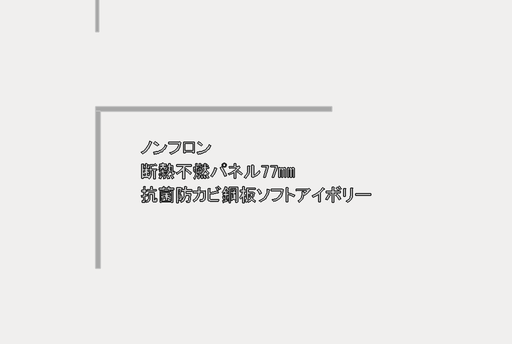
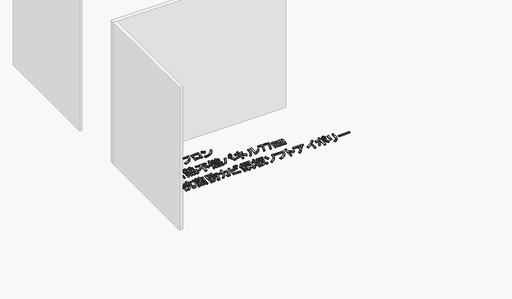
# One storey, part 10 of 117: 1 proxy.
"""IFC4 building model written with IfcOpenShell, lengths in millimetres."""

from ifc_helpers import new_model, si_unit, frame, origin, place, context, project, spatial, polyline, outline, extrude, element, save

model = new_model("IFC4")

# Units and contexts
model_context = context("Model", 3, world=origin())
ifc_project = project(units=[si_unit("LENGTHUNIT", "METRE", prefix="MILLI")], contexts=[model_context])

# Site, building, storey
site = spatial("IfcSite", under=ifc_project)
building = spatial("IfcBuilding", under=site)
storey = spatial("IfcBuildingStorey", under=building, Name="レベル 1", Elevation=500.0)

# Proxy
placement = place(None, origin())
element("IfcBuildingElementProxy", 1, Name="200㎜\u3000MS Pゴシック", ObjectType="200㎜\u3000MS Pゴシック", at=placement, inside=storey, context=model_context, shape_type="SweptSolid", body=[
    extrude(outline(polyline([(-7056.3293015, -28607.0496882), (-7081.9047498, -28666.8215225), (-7110.353844, -28712.7998566), (-7152.0217093, -28758.2034615), (-7201.1610538, -28795.560858), (-7228.7480543, -28773.7211493), (-7181.0455327, -28743.2605029), (-7141.3892195, -28704.7536481), (-7124.0036619, -28680.8305462), (-7108.6296565, -28652.7406577), (-7095.2672031, -28620.4839827), (-7083.9163019, -28584.0605212), (-7052.8809264, -28597.8540214), (-7049.7199159, -28602.4518548), (-7056.3293015, -28607.0496882)])), frame((0.0, 0.0, 500.0), z_axis=(0.0, 0.0, 1.0), x_axis=(1.0, 0.0, 0.0)), (0.0, 0.0, 1.0), 25.0),
    extrude(outline(polyline([(-6956.6022948, -28662.2236891), (-7015.2246708, -28615.0958967), (-6995.6838788, -28590.9572713), (-6968.3842429, -28610.7854279), (-6934.7625862, -28640.3839804), (-6956.6022948, -28662.2236891)])), frame((0.0, 0.0, 500.0), z_axis=(0.0, 0.0, 1.0), x_axis=(1.0, 0.0, 0.0)), (0.0, 0.0, 1.0), 25.0),
    extrude(outline(polyline([(-6794.5286672, -28662.2236891), (-6811.052131, -28691.965924), (-6830.1618761, -28717.9724192), (-6851.8579025, -28740.2431748), (-6876.1402102, -28758.7781907), (-6903.0087992, -28773.577467), (-6932.4636694, -28784.6410036), (-6964.504821, -28791.9688006), (-6999.1322539, -28795.560858), (-7004.8795456, -28803.6070664), (-7010.6268374, -28797.8597747), (-7019.8225042, -28767.9738575), (-6983.9917321, -28765.2977748), (-6951.2142088, -28758.9937141), (-6921.4899342, -28749.0616756), (-6894.8189084, -28735.5016591), (-6871.2011313, -28718.3136646), (-6850.636603, -28697.4976923), (-6833.1253234, -28673.053742), (-6818.6672926, -28644.9818138), (-6794.5286672, -28662.2236891)])), frame((0.0, 0.0, 500.0), z_axis=(0.0, 0.0, 1.0), x_axis=(1.0, 0.0, 0.0)), (0.0, 0.0, 1.0), 25.0),
    extrude(outline(polyline([(-6743.7685864, -28777.1695243), (-6709.985287, -28767.4889298), (-6680.4765359, -28755.1142922), (-6655.242333, -28740.0456116), (-6634.2826783, -28722.282888), (-6617.597572, -28701.8261214), (-6605.1870138, -28678.6753118), (-6597.0510039, -28652.8304591), (-6593.1895423, -28624.2915635), (-6765.6082951, -28624.2915635), (-6765.6082951, -28599.0034798), (-6590.8906256, -28599.0034798), (-6574.7982086, -28595.5551047), (-6562.1541668, -28607.0496882), (-6565.674383, -28643.5449909), (-6573.9361149, -28676.5919185), (-6586.9393625, -28706.1904711), (-6604.6841258, -28732.3406486), (-6627.1704048, -28755.042451), (-6654.3981995, -28774.2958784), (-6686.3675099, -28790.1009308), (-6723.078336, -28802.4576081), (-6743.7685864, -28777.1695243)])), frame((0.0, 0.0, 500.0), z_axis=(0.0, 0.0, 1.0), x_axis=(1.0, 0.0, 0.0)), (0.0, 0.0, 1.0), 25.0),
    extrude(outline(polyline([(-6329.044013, -28776.020066), (-6355.4815551, -28776.020066), (-6355.4815551, -28763.3760241), (-6483.0714321, -28763.3760241), (-6483.0714321, -28781.7673577), (-6509.5089742, -28781.7673577), (-6509.5089742, -28602.4518548), (-6329.044013, -28602.4518548), (-6329.044013, -28776.020066)]), holes=[polyline([(-6483.0714321, -28627.7399386), (-6483.0714321, -28738.0879404), (-6355.4815551, -28738.0879404), (-6355.4815551, -28627.7399386), (-6483.0714321, -28627.7399386)])]), frame((0.0, 0.0, 500.0), z_axis=(0.0, 0.0, 1.0), x_axis=(1.0, 0.0, 0.0)), (0.0, 0.0, 1.0), 25.0),
    extrude(outline(polyline([(-6052.9900951, -28662.2236891), (-6069.5135589, -28691.965924), (-6088.623304, -28717.9724192), (-6110.3193304, -28740.2431748), (-6134.6016381, -28758.7781907), (-6161.4702271, -28773.577467), (-6190.9250974, -28784.6410036), (-6222.9662489, -28791.9688006), (-6257.5936818, -28795.560858), (-6263.3409736, -28803.6070664), (-6269.0882653, -28797.8597747), (-6278.2839321, -28767.9738575), (-6242.4531601, -28765.2977748), (-6209.6756367, -28758.9937141), (-6179.9513622, -28749.0616756), (-6153.2803363, -28735.5016591), (-6129.6625593, -28718.3136646), (-6109.0980309, -28697.4976923), (-6091.5867514, -28673.053742), (-6077.1287205, -28644.9818138), (-6052.9900951, -28662.2236891)])), frame((0.0, 0.0, 500.0), z_axis=(0.0, 0.0, 1.0), x_axis=(1.0, 0.0, 0.0)), (0.0, 0.0, 1.0), 25.0),
    extrude(outline(polyline([(-6215.0637228, -28662.2236891), (-6273.6860987, -28615.0958967), (-6254.1453067, -28590.9572713), (-6226.8456709, -28610.7854279), (-6193.2240141, -28640.3839804), (-6215.0637228, -28662.2236891)])), frame((0.0, 0.0, 500.0), z_axis=(0.0, 0.0, 1.0), x_axis=(1.0, 0.0, 0.0)), (0.0, 0.0, 1.0), 25.0),
    extrude(outline(polyline([(-7122.9978859, -29039.2345221), (-7105.7560106, -28986.3594379), (-7085.0657603, -28992.1067296), (-7083.3415727, -28995.2677401), (-7087.364677, -28997.8540214), (-7104.6065523, -29046.1312722), (-7122.9978859, -29039.2345221)])), frame((0.0, 0.0, 500.0), z_axis=(0.0, 0.0, 1.0), x_axis=(1.0, 0.0, 0.0)), (0.0, 0.0, 1.0), 25.0),
    extrude(outline(polyline([(-6968.9704667, -28990.9572713), (-6970.6946542, -28995.5551047), (-6978.1661335, -28993.256188), (-7055.1798431, -29005.9002299), (-7055.1798431, -29055.326939), (-6963.2231749, -29055.326939), (-6963.2231749, -29077.1666477), (-6994.2585505, -29077.1666477), (-6994.2585505, -29217.4005666), (-7017.2477175, -29217.4005666), (-7017.2477175, -29077.1666477), (-7055.1798431, -29077.1666477), (-7055.1798431, -29126.5933568), (-7057.7661244, -29154.3958807), (-7065.5249683, -29179.1810764), (-7078.4563747, -29200.948944), (-7096.5603438, -29219.6994833), (-7113.8022191, -29200.1586914), (-7103.4570939, -29190.9630245), (-7193.1148454, -29190.9630245), (-7193.1148454, -29212.8027332), (-7216.1040124, -29212.8027332), (-7216.1040124, -28973.715396), (-7194.2643037, -28973.715396), (-7189.3791057, -28976.0143127), (-7193.1148454, -28980.6121461), (-7193.1148454, -29056.4763974), (-7150.5848863, -29056.4763974), (-7150.5848863, -28969.1175626), (-7132.1935527, -28969.1175626), (-7127.3083547, -28971.4164793), (-7131.0440943, -28976.0143127), (-7131.0440943, -29056.4763974), (-7087.364677, -29056.4763974), (-7087.364677, -29074.867731), (-7131.0440943, -29074.867731), (-7131.0440943, -29084.0633978), (-7090.813052, -29110.5009399), (-7104.6065523, -29132.3406486), (-7131.0440943, -29105.9031065), (-7131.0440943, -29158.7781907), (-7150.5848863, -29158.7781907), (-7150.5848863, -29110.5009399), (-7163.8036574, -29130.3290965), (-7178.1718868, -29146.1341488), (-7190.8159287, -29127.7428152), (-7168.97622, -29103.6041898), (-7151.7343447, -29074.867731), (-7193.1148454, -29074.867731), (-7193.1148454, -29169.1233159), (-7095.4108854, -29169.1233159), (-7095.4108854, -29182.9168161), (-7082.479479, -29158.7781907), (-7078.1690102, -29125.4438985), (-7078.1690102, -28980.6121461), (-7056.3293015, -28986.3594379), (-7020.1213634, -28978.8879586), (-6989.660717, -28965.6691875), (-6968.9704667, -28990.9572713)])), frame((0.0, 0.0, 500.0), z_axis=(0.0, 0.0, 1.0), x_axis=(1.0, 0.0, 0.0)), (0.0, 0.0, 1.0), 25.0),
    extrude(outline(polyline([(-7177.0224284, -29047.2807305), (-7189.6664703, -28996.7045631), (-7170.1256783, -28989.8078129), (-7162.3668344, -29013.9464383), (-7157.4816364, -29040.3839804), (-7177.0224284, -29047.2807305)])), frame((0.0, 0.0, 500.0), z_axis=(0.0, 0.0, 1.0), x_axis=(1.0, 0.0, 0.0)), (0.0, 0.0, 1.0), 25.0),
    extrude(outline(polyline([(-6878.1632569, -29167.9738575), (-6874.7148818, -29172.8590555), (-6880.4621736, -29176.020066), (-6890.2325696, -29201.5955143), (-6901.1524239, -29220.8489417), (-6924.141591, -29209.3543582), (-6911.4975491, -29185.790462), (-6901.1524239, -29158.7781907), (-6878.1632569, -29167.9738575)])), frame((0.0, 0.0, 500.0), z_axis=(0.0, 0.0, 1.0), x_axis=(1.0, 0.0, 0.0)), (0.0, 0.0, 1.0), 25.0),
    extrude(outline(polyline([(-6833.3343812, -29163.3760241), (-6823.2766206, -29190.67566), (-6818.3914226, -29212.8027332), (-6847.1278814, -29218.550025), (-6849.7141627, -29196.9976809), (-6857.4730066, -29166.8243992), (-6833.3343812, -29163.3760241)])), frame((0.0, 0.0, 500.0), z_axis=(0.0, 0.0, 1.0), x_axis=(1.0, 0.0, 0.0)), (0.0, 0.0, 1.0), 25.0),
    extrude(outline(polyline([(-6718.388546, -29157.6287323), (-6693.6751914, -29178.8937119), (-6674.7091286, -29203.6070664), (-6701.1466707, -29218.550025), (-6720.4000981, -29188.9514724), (-6739.0787963, -29169.1233159), (-6718.388546, -29157.6287323)])), frame((0.0, 0.0, 500.0), z_axis=(0.0, 0.0, 1.0), x_axis=(1.0, 0.0, 0.0)), (0.0, 0.0, 1.0), 25.0),
    extrude(outline(polyline([(-6777.0109219, -29216.2511083), (-6785.344495, -29191.5377537), (-6798.8506306, -29170.2727742), (-6778.1603803, -29162.2265657), (-6761.2058696, -29183.7789098), (-6749.4239215, -29207.0554415), (-6777.0109219, -29216.2511083)])), frame((0.0, 0.0, 500.0), z_axis=(0.0, 0.0, 1.0), x_axis=(1.0, 0.0, 0.0)), (0.0, 0.0, 1.0), 25.0),
    extrude(outline(polyline([(-6916.0953825, -29153.0308989), (-6918.1069346, -29157.9160969), (-6921.8426743, -29156.479274), (-6927.589966, -29132.3406486), (-6872.4159651, -29124.2944401), (-6872.4159651, -29101.3052731), (-6916.0953825, -29101.3052731), (-6916.0953825, -29082.9139395), (-6872.4159651, -29082.9139395), (-6872.4159651, -29059.9247724), (-6854.0246315, -29059.9247724), (-6849.1394335, -29062.2236891), (-6852.8751732, -29066.8215225), (-6852.8751732, -29082.9139395), (-6808.0462974, -29082.9139395), (-6808.0462974, -29101.3052731), (-6852.8751732, -29101.3052731), (-6852.8751732, -29120.8460651), (-6802.2990057, -29111.6503983), (-6802.2990057, -29127.7428152), (-6916.0953825, -29153.0308989)])), frame((0.0, 0.0, 500.0), z_axis=(0.0, 0.0, 1.0), x_axis=(1.0, 0.0, 0.0)), (0.0, 0.0, 1.0), 25.0),
    extrude(outline(polyline([(-6845.978423, -29031.1883136), (-6871.2665068, -29031.1883136), (-6875.8643402, -29048.6457123), (-6886.2094654, -29061.9363245), (-6902.3018823, -29071.0601502), (-6924.141591, -29076.0171893), (-6928.7394244, -29056.4763974), (-6903.4513406, -29047.8554597), (-6895.9798614, -29040.5276627), (-6891.9567571, -29031.1883136), (-6927.589966, -29031.1883136), (-6927.589966, -29012.79698), (-6873.5654235, -29012.79698), (-6873.5654235, -28995.5551047), (-6917.2448409, -28995.5551047), (-6917.2448409, -28977.1637711), (-6873.5654235, -28977.1637711), (-6873.5654235, -28958.7724374), (-6851.7257148, -28958.7724374), (-6846.8405168, -28961.0713541), (-6850.5762564, -28965.6691875), (-6850.5762564, -28977.1637711), (-6808.0462974, -28977.1637711), (-6808.0462974, -28995.5551047), (-6850.5762564, -28995.5551047), (-6850.5762564, -29012.79698), (-6797.7011723, -29012.79698), (-6797.7011723, -29031.1883136), (-6826.4376311, -29031.1883136), (-6826.4376311, -29043.8323555), (-6825.0008081, -29049.0049181), (-6820.6903393, -29050.7291056), (-6810.3452141, -29050.7291056), (-6806.6094745, -29047.5680951), (-6806.8968391, -29038.0850637), (-6787.3560471, -29040.3839804), (-6790.229693, -29061.9363245), (-6795.5459378, -29067.3244106), (-6803.448464, -29069.1204392), (-6827.5870894, -29069.1204392), (-6841.3805896, -29064.2352412), (-6845.978423, -29049.5796472), (-6845.978423, -29031.1883136)])), frame((0.0, 0.0, 500.0), z_axis=(0.0, 0.0, 1.0), x_axis=(1.0, 0.0, 0.0)), (0.0, 0.0, 1.0), 25.0),
    extrude(outline(polyline([(-6714.9401709, -29013.9464383), (-6736.7798796, -29013.9464383), (-6741.377713, -29071.4193559), (-6721.836921, -29089.8106896), (-6732.1820462, -29111.6503983), (-6748.2744631, -29095.5579813), (-6767.5278905, -29133.2027424), (-6797.7011723, -29165.6749408), (-6814.9430475, -29144.9846905), (-6799.8564067, -29133.0590601), (-6786.7813179, -29117.9724192), (-6775.7177813, -29099.7247679), (-6766.6657967, -29078.316106), (-6783.907672, -29063.3731475), (-6775.8614636, -29046.1312722), (-6762.0679633, -29056.4763974), (-6759.7690466, -29013.9464383), (-6787.3560471, -29013.9464383), (-6787.3560471, -28995.5551047), (-6759.7690466, -28995.5551047), (-6759.7690466, -28961.0713541), (-6737.9293379, -28961.0713541), (-6733.04414, -28963.3702708), (-6736.7798796, -28967.9681043), (-6736.7798796, -28995.5551047), (-6695.3993789, -28995.5551047), (-6695.3993789, -29092.1096063), (-6691.9510039, -29116.2482317), (-6688.7181523, -29118.2597838), (-6685.9163475, -29115.0987733), (-6681.6058787, -29093.2590646), (-6662.0650867, -29100.1558147), (-6666.591079, -29126.9525626), (-6674.421764, -29142.9731384), (-6685.5571418, -29148.2175421), (-6699.9972123, -29142.6857738), (-6706.5347567, -29135.3579768), (-6711.2044313, -29123.719711), (-6714.9401709, -29087.5117729), (-6714.9401709, -29013.9464383)])), frame((0.0, 0.0, 500.0), z_axis=(0.0, 0.0, 1.0), x_axis=(1.0, 0.0, 0.0)), (0.0, 0.0, 1.0), 25.0),
    extrude(outline(polyline([(-6626.4318778, -28980.6121461), (-6385.0456239, -28980.6121461), (-6385.0456239, -29005.9002299), (-6485.0485005, -29005.9002299), (-6495.3936257, -29030.0388553), (-6495.3936257, -29216.2511083), (-6521.8311678, -29216.2511083), (-6521.8311678, -29069.1204392), (-6542.6651004, -29092.3969709), (-6566.0853143, -29112.7998566), (-6592.0918095, -29130.3290965), (-6620.684586, -29144.9846905), (-6636.777003, -29118.5471484), (-6597.192531, -29098.1442626), (-6563.499033, -29072.5688143), (-6535.6965091, -29041.8208034), (-6513.7849593, -29005.9002299), (-6626.4318778, -29005.9002299), (-6626.4318778, -28980.6121461)])), frame((0.0, 0.0, 500.0), z_axis=(0.0, 0.0, 1.0), x_axis=(1.0, 0.0, 0.0)), (0.0, 0.0, 1.0), 25.0),
    extrude(outline(polyline([(-6399.9885824, -29141.5363154), (-6439.0701664, -29103.3168252), (-6480.4506671, -29073.7182726), (-6464.3582502, -29053.0280223), (-6420.6788328, -29081.1897519), (-6379.2983321, -29119.6966067), (-6399.9885824, -29141.5363154)])), frame((0.0, 0.0, 500.0), z_axis=(0.0, 0.0, 1.0), x_axis=(1.0, 0.0, 0.0)), (0.0, 0.0, 1.0), 25.0),
    extrude(outline(polyline([(-6232.167663, -29163.3760241), (-6240.7886007, -29193.8366704), (-6255.1568301, -29220.8489417), (-6274.6976221, -29208.2048998), (-6260.6167573, -29183.4915453), (-6250.5589967, -29155.3298156), (-6232.167663, -29163.3760241)])), frame((0.0, 0.0, 500.0), z_axis=(0.0, 0.0, 1.0), x_axis=(1.0, 0.0, 0.0)), (0.0, 0.0, 1.0), 25.0),
    extrude(outline(polyline([(-6317.2275811, -29025.4410219), (-6312.6297477, -29027.7399386), (-6317.2275811, -29032.337772), (-6318.3770395, -29071.9940851), (-6324.1243312, -29105.9031065), (-6342.5156648, -29093.2590646), (-6336.7683731, -29058.7753141), (-6335.6189147, -29021.9926468), (-6317.2275811, -29025.4410219)])), frame((0.0, 0.0, 500.0), z_axis=(0.0, 0.0, 1.0), x_axis=(1.0, 0.0, 0.0)), (0.0, 0.0, 1.0), 25.0),
    extrude(outline(polyline([(-6265.5019553, -29007.0496882), (-6256.3062884, -29024.2915635), (-6254.8694655, -29030.3262199), (-6259.7546635, -29030.0388553), (-6286.1922056, -29050.7291056), (-6286.1922056, -29134.6395653), (-6272.3987054, -29146.9962426), (-6260.9041219, -29163.3760241), (-6273.5481637, -29184.0662744), (-6291.9394974, -29158.7781907), (-6303.7214455, -29194.6987642), (-6325.2737896, -29224.2973168), (-6340.2167481, -29205.9059831), (-6325.1301073, -29187.1554438), (-6314.3539352, -29166.5370346), (-6307.888232, -29144.0507556), (-6305.7329976, -29119.6966067), (-6305.7329976, -28962.2208125), (-6287.3416639, -28962.2208125), (-6282.456466, -28964.5197292), (-6286.1922056, -28969.1175626), (-6286.1922056, -29027.7399386), (-6265.5019553, -29007.0496882)])), frame((0.0, 0.0, 500.0), z_axis=(0.0, 0.0, 1.0), x_axis=(1.0, 0.0, 0.0)), (0.0, 0.0, 1.0), 25.0),
    extrude(outline(polyline([(-6114.9229111, -28976.0143127), (-6093.0832025, -29000.1529381), (-6110.3250777, -29011.6475216), (-6116.9344633, -29000.1529381), (-6129.8658697, -28986.3594379), (-6114.9229111, -28976.0143127)])), frame((0.0, 0.0, 500.0), z_axis=(0.0, 0.0, 1.0), x_axis=(1.0, 0.0, 0.0)), (0.0, 0.0, 1.0), 25.0),
    extrude(outline(polyline([(-6104.577786, -29212.8027332), (-6117.796557, -29184.6410036), (-6134.4637031, -29159.927649), (-6116.0723695, -29151.8814406), (-6097.1063067, -29174.8706076), (-6081.5886189, -29202.4576081), (-6104.577786, -29212.8027332)])), frame((0.0, 0.0, 500.0), z_axis=(0.0, 0.0, 1.0), x_axis=(1.0, 0.0, 0.0)), (0.0, 0.0, 1.0), 25.0),
    extrude(outline(polyline([(-6154.0044951, -29157.6287323), (-6135.6131615, -29207.0554415), (-6159.7517869, -29211.6532749), (-6173.5452871, -29161.0771074), (-6154.0044951, -29157.6287323)])), frame((0.0, 0.0, 500.0), z_axis=(0.0, 0.0, 1.0), x_axis=(1.0, 0.0, 0.0)), (0.0, 0.0, 1.0), 25.0),
    extrude(outline(polyline([(-6212.6268711, -29215.1016499), (-6212.0521419, -29188.0893787), (-6214.9257878, -29159.927649), (-6195.3849958, -29158.7781907), (-6189.0629748, -29184.9283682), (-6188.4882457, -29212.8027332), (-6212.6268711, -29215.1016499)])), frame((0.0, 0.0, 500.0), z_axis=(0.0, 0.0, 1.0), x_axis=(1.0, 0.0, 0.0)), (0.0, 0.0, 1.0), 25.0),
    extrude(outline(polyline([(-6093.0832025, -29142.6857738), (-6123.8312134, -29112.2251274), (-6144.8088283, -29078.316106), (-6153.2142425, -29100.4431793), (-6164.6369849, -29119.6966067), (-6179.0770554, -29136.0763882), (-6196.5344541, -29149.5825239), (-6210.3279544, -29131.1911902), (-6189.4940217, -29112.2969686), (-6174.1200163, -29091.2475125), (-6164.205938, -29068.042822), (-6159.7517869, -29042.6828971), (-6188.4882457, -29042.6828971), (-6196.462613, -29073.2872258), (-6210.0405898, -29100.7305439), (-6229.222176, -29125.0128516), (-6254.0073717, -29146.1341488), (-6266.6514136, -29130.0417319), (-6240.7886007, -29108.4893878), (-6225.2709129, -29087.5117729), (-6247.1106216, -29067.9709809), (-6260.9041219, -29088.6612312), (-6274.6976221, -29073.7182726), (-6262.2691036, -29054.6803687), (-6252.5705488, -29029.7514907), (-6245.6019575, -28998.9316386), (-6241.3633299, -28962.2208125), (-6220.6730795, -28964.5197292), (-6217.2247045, -28967.1060105), (-6222.9719962, -28970.267021), (-6225.2709129, -28988.6583546), (-6181.5914956, -28988.6583546), (-6185.0398706, -29024.2915635), (-6159.7517869, -29024.2915635), (-6159.7517869, -28962.2208125), (-6137.9120782, -28962.2208125), (-6133.0268802, -28964.5197292), (-6136.7626198, -28969.1175626), (-6136.7626198, -29024.2915635), (-6087.3359107, -29024.2915635), (-6087.3359107, -29042.6828971), (-6136.7626198, -29042.6828971), (-6130.2250755, -29064.4507647), (-6118.6586508, -29084.9254916), (-6102.0633458, -29104.1070778), (-6080.4391606, -29121.9955234), (-6093.0832025, -29142.6857738)]), holes=[polyline([(-6217.2247045, -29072.5688143), (-6210.3279544, -29053.0280223), (-6235.6160381, -29036.9356054), (-6241.3633299, -29054.1774807), (-6217.2247045, -29072.5688143)]), polyline([(-6227.5698296, -29007.0496882), (-6231.0182047, -29023.1421052), (-6205.730121, -29036.9356054), (-6201.1322875, -29007.0496882), (-6227.5698296, -29007.0496882)])]), frame((0.0, 0.0, 500.0), z_axis=(0.0, 0.0, 1.0), x_axis=(1.0, 0.0, 0.0)), (0.0, 0.0, 1.0), 25.0),
    extrude(outline(polyline([(-5867.7893655, -29016.245355), (-5841.1362999, -29052.9561812), (-5818.6500209, -29090.6727833), (-5800.3305284, -29129.3951616), (-5786.1778225, -29169.1233159), (-5817.213198, -29179.468441), (-5832.6590446, -29136.3637528), (-5850.2601256, -29097.856898), (-5870.016441, -29063.9478766), (-5891.9279908, -29034.6366887), (-5867.7893655, -29016.245355)])), frame((0.0, 0.0, 500.0), z_axis=(0.0, 0.0, 1.0), x_axis=(1.0, 0.0, 0.0)), (0.0, 0.0, 1.0), 25.0),
    extrude(outline(polyline([(-5955.1482002, -29042.6828971), (-5951.125096, -29048.1428243), (-5957.4471169, -29053.0280223), (-5969.3727473, -29088.4457078), (-5984.4593882, -29122.282888), (-6002.7070395, -29154.539563), (-6024.1157013, -29185.2157328), (-6050.5532434, -29167.9738575), (-6027.3485529, -29136.5074351), (-6008.310649, -29103.0294606), (-5993.4395316, -29067.539934), (-5982.7352007, -29030.0388553), (-5955.1482002, -29042.6828971)])), frame((0.0, 0.0, 500.0), z_axis=(0.0, 0.0, 1.0), x_axis=(1.0, 0.0, 0.0)), (0.0, 0.0, 1.0), 25.0),
    extrude(outline(polyline([(-5821.8110314, -29021.9926468), (-5834.4550732, -29019.6937301), (-5844.8001984, -29012.79698), (-5851.6969485, -29002.4518548), (-5853.9958652, -28989.8078129), (-5851.6969485, -28977.1637711), (-5844.8001984, -28966.8186459), (-5834.4550732, -28959.9218958), (-5821.8110314, -28957.6229791), (-5809.1669895, -28959.9218958), (-5798.8218643, -28966.8186459), (-5791.9251142, -28977.1637711), (-5789.6261975, -28989.8078129), (-5791.9251142, -29002.4518548), (-5798.8218643, -29012.79698), (-5809.1669895, -29019.6937301), (-5821.8110314, -29021.9926468)]), holes=[polyline([(-5821.8110314, -29010.4980633), (-5813.4774583, -29009.0612403), (-5806.8680728, -29004.7507715), (-5802.557604, -28998.141386), (-5801.120781, -28989.8078129), (-5802.557604, -28981.4742399), (-5806.8680728, -28974.8648544), (-5813.4774583, -28970.5543855), (-5821.8110314, -28969.1175626), (-5830.1446044, -28970.5543855), (-5836.7539899, -28974.8648544), (-5841.0644588, -28981.4742399), (-5842.5012817, -28989.8078129), (-5841.0644588, -28998.141386), (-5836.7539899, -29004.7507715), (-5830.1446044, -29009.0612403), (-5821.8110314, -29010.4980633)])]), frame((0.0, 0.0, 500.0), z_axis=(0.0, 0.0, 1.0), x_axis=(1.0, 0.0, 0.0)), (0.0, 0.0, 1.0), 25.0),
    extrude(outline(polyline([(-5578.1258607, -29011.6475216), (-5571.2291106, -29009.3486049), (-5558.5850688, -29026.5904802), (-5557.4356104, -29032.6251366), (-5563.1829022, -29034.6366887), (-5626.4031115, -29090.9601479), (-5626.4031115, -29211.6532749), (-5652.8406536, -29211.6532749), (-5652.8406536, -29109.3514816), (-5693.0716959, -29133.4901069), (-5737.9005717, -29155.3298156), (-5757.4413637, -29134.6395653), (-5711.8940765, -29115.1706145), (-5670.6572581, -29092.3969709), (-5633.7309085, -29066.3186345), (-5601.1150278, -29036.9356054), (-5731.0038216, -29042.6828971), (-5734.4521966, -29017.3948134), (-5652.8406536, -29015.0958967), (-5652.8406536, -28963.3702708), (-5629.8514866, -28963.3702708), (-5623.8168302, -28966.8186459), (-5626.4031115, -28972.5659377), (-5626.4031115, -29013.9464383), (-5578.1258607, -29011.6475216)])), frame((0.0, 0.0, 500.0), z_axis=(0.0, 0.0, 1.0), x_axis=(1.0, 0.0, 0.0)), (0.0, 0.0, 1.0), 25.0),
    extrude(outline(polyline([(-5532.1475267, -29155.3298156), (-5569.2175585, -29126.0186277), (-5602.2644861, -29104.7536481), (-5585.0226108, -29082.9139395), (-5546.2283915, -29106.1904711), (-5512.6067347, -29132.3406486), (-5532.1475267, -29155.3298156)])), frame((0.0, 0.0, 500.0), z_axis=(0.0, 0.0, 1.0), x_axis=(1.0, 0.0, 0.0)), (0.0, 0.0, 1.0), 25.0),
    extrude(outline(polyline([(-5325.1530666, -29162.2265657), (-5300.3678709, -29150.0135708), (-5276.5884512, -29132.9153778), (-5253.8148076, -29110.9319868), (-5232.0469401, -29084.0633978), (-5215.9545232, -29105.9031065), (-5239.2310548, -29133.7056304), (-5265.3812323, -29157.3413678), (-5294.4050557, -29176.8103186), (-5326.302525, -29192.1124829), (-5335.4981918, -29196.7103163), (-5353.8895254, -29182.9168161), (-5351.5906087, -29177.1695243), (-5351.5906087, -28992.1067296), (-5327.4519833, -28992.1067296), (-5321.7046916, -28995.5551047), (-5325.1530666, -29001.3023965), (-5325.1530666, -29162.2265657)])), frame((0.0, 0.0, 500.0), z_axis=(0.0, 0.0, 1.0), x_axis=(1.0, 0.0, 0.0)), (0.0, 0.0, 1.0), 25.0),
    extrude(outline(polyline([(-5479.1804858, -29193.2619413), (-5454.0360843, -29164.0225944), (-5436.0757976, -29131.4785548), (-5425.2996255, -29095.6298225), (-5421.7075682, -29056.4763974), (-5421.7075682, -29004.7507715), (-5397.5689428, -29004.7507715), (-5391.821651, -29008.1991466), (-5395.2700261, -29013.9464383), (-5395.2700261, -29055.326939), (-5399.0776069, -29101.0897496), (-5410.5003493, -29141.82368), (-5429.5382532, -29177.5287301), (-5456.1913188, -29208.2048998), (-5479.1804858, -29193.2619413)])), frame((0.0, 0.0, 500.0), z_axis=(0.0, 0.0, 1.0), x_axis=(1.0, 0.0, 0.0)), (0.0, 0.0, 1.0), 25.0),
    extrude(outline(polyline([(-5183.7696893, -28995.5551047), (-5074.5711459, -28995.5551047), (-5074.5711459, -29020.8431884), (-5129.7451468, -29192.1124829), (-5155.0332305, -29192.1124829), (-5099.8592296, -29017.3948134), (-5183.7696893, -29017.3948134), (-5183.7696893, -28995.5551047)])), frame((0.0, 0.0, 500.0), z_axis=(0.0, 0.0, 1.0), x_axis=(1.0, 0.0, 0.0)), (0.0, 0.0, 1.0), 25.0),
    extrude(outline(polyline([(-5036.6390203, -28995.5551047), (-4927.4404768, -28995.5551047), (-4927.4404768, -29020.8431884), (-4982.6144777, -29192.1124829), (-5007.9025615, -29192.1124829), (-4952.7285606, -29017.3948134), (-5036.6390203, -29017.3948134), (-5036.6390203, -28995.5551047)])), frame((0.0, 0.0, 500.0), z_axis=(0.0, 0.0, 1.0), x_axis=(1.0, 0.0, 0.0)), (0.0, 0.0, 1.0), 25.0),
    extrude(outline(polyline([(-4874.5653926, -29193.2619413), (-4894.1061846, -29193.2619413), (-4894.1061846, -29035.786147), (-4874.5653926, -29035.786147), (-4874.5653926, -29053.0280223), (-4862.4960799, -29037.5103346), (-4849.2773089, -29032.337772), (-4840.0816421, -29033.7745949), (-4833.1848919, -29038.0850637), (-4826.2881418, -29051.878564), (-4813.3567354, -29037.22297), (-4799.8505997, -29032.337772), (-4791.5170267, -29033.7745949), (-4784.9076412, -29038.0850637), (-4779.7350786, -29046.7060014), (-4778.010891, -29058.7753141), (-4778.010891, -29193.2619413), (-4797.551683, -29193.2619413), (-4797.551683, -29069.1204392), (-4800.1379643, -29059.6374078), (-4807.8968082, -29056.4763974), (-4818.2419334, -29061.0742308), (-4824.2765897, -29069.6951684), (-4826.2881418, -29079.4655644), (-4826.2881418, -29193.2619413), (-4845.8289338, -29193.2619413), (-4845.8289338, -29069.1204392), (-4848.4152151, -29059.6374078), (-4856.174059, -29056.4763974), (-4866.5191842, -29061.0742308), (-4872.5538405, -29069.6951684), (-4874.5653926, -29079.4655644), (-4874.5653926, -29193.2619413)])), frame((0.0, 0.0, 500.0), z_axis=(0.0, 0.0, 1.0), x_axis=(1.0, 0.0, 0.0)), (0.0, 0.0, 1.0), 25.0),
    extrude(outline(polyline([(-4652.7199307, -29032.337772), (-4644.3863576, -29033.7745949), (-4637.7769721, -29038.0850637), (-4632.6044095, -29046.7060014), (-4630.880222, -29058.7753141), (-4630.880222, -29193.2619413), (-4650.421014, -29193.2619413), (-4650.421014, -29069.1204392), (-4653.0072953, -29059.6374078), (-4660.7661391, -29056.4763974), (-4671.1112643, -29061.0742308), (-4677.1459207, -29069.6951684), (-4679.1574728, -29079.4655644), (-4679.1574728, -29193.2619413), (-4698.6982648, -29193.2619413), (-4698.6982648, -29069.1204392), (-4701.284546, -29059.6374078), (-4709.0433899, -29056.4763974), (-4719.3885151, -29061.0742308), (-4725.4231714, -29069.6951684), (-4727.4347236, -29079.4655644), (-4727.4347236, -29193.2619413), (-4746.9755155, -29193.2619413), (-4746.9755155, -29035.786147), (-4727.4347236, -29035.786147), (-4727.4347236, -29053.0280223), (-4715.3654109, -29037.5103346), (-4702.1466398, -29032.337772), (-4692.950973, -29033.7745949), (-4686.0542229, -29038.0850637), (-4679.1574728, -29051.878564), (-4666.2260663, -29037.22297), (-4652.7199307, -29032.337772)])), frame((0.0, 0.0, 500.0), z_axis=(0.0, 0.0, 1.0), x_axis=(1.0, 0.0, 0.0)), (0.0, 0.0, 1.0), 25.0),
    extrude(outline(polyline([(-7212.6556373, -29527.7428152), (-7216.1040124, -29533.7774715), (-7219.5523875, -29528.8922735), (-7227.5985959, -29505.9031065), (-7189.6664703, -29497.856898), (-7189.6664703, -29438.0850637), (-7223.0007625, -29438.0850637), (-7223.0007625, -29416.245355), (-7189.6664703, -29416.245355), (-7189.6664703, -29356.4735207), (-7167.8267616, -29356.4735207), (-7162.9415636, -29358.7724374), (-7166.6773033, -29363.3702708), (-7166.6773033, -29416.245355), (-7140.2397612, -29416.245355), (-7140.2397612, -29438.0850637), (-7166.6773033, -29438.0850637), (-7166.6773033, -29492.1096063), (-7131.0440943, -29481.7644811), (-7128.7451776, -29503.6041898), (-7166.6773033, -29515.0987733), (-7166.6773033, -29603.6070664), (-7170.4130429, -29615.6763791), (-7181.6202618, -29619.6994833), (-7208.0578039, -29619.6994833), (-7211.506179, -29594.4113996), (-7194.2643037, -29594.4113996), (-7190.8159287, -29593.2619413), (-7189.6664703, -29589.8135662), (-7189.6664703, -29520.8460651), (-7212.6556373, -29527.7428152)])), frame((0.0, 0.0, 500.0), z_axis=(0.0, 0.0, 1.0), x_axis=(1.0, 0.0, 0.0)), (0.0, 0.0, 1.0), 25.0),
    extrude(outline(polyline([(-7066.6744266, -29403.6013132), (-7066.6744266, -29357.6229791), (-7044.8347179, -29357.6229791), (-7039.9495199, -29359.9218958), (-7043.6852596, -29364.5197292), (-7043.6852596, -29403.6013132), (-6972.4188418, -29403.6013132), (-6972.4188418, -29425.4410219), (-7128.7451776, -29425.4410219), (-7128.7451776, -29403.6013132), (-7066.6744266, -29403.6013132)])), frame((0.0, 0.0, 500.0), z_axis=(0.0, 0.0, 1.0), x_axis=(1.0, 0.0, 0.0)), (0.0, 0.0, 1.0), 25.0),
    extrude(outline(polyline([(-7010.3509674, -29461.0742308), (-7010.3509674, -29577.1695243), (-7008.3394153, -29584.0662744), (-7002.3047589, -29586.3651911), (-6995.4080088, -29586.3651911), (-6990.8101754, -29584.0662744), (-6988.5112587, -29577.1695243), (-6986.212342, -29554.1803573), (-6962.0737166, -29562.2265657), (-6964.3726333, -29585.2157328), (-6966.67155, -29596.7821575), (-6971.2693834, -29605.0438894), (-6978.1661335, -29610.0009285), (-6987.3618003, -29611.6532749), (-7009.201509, -29611.6532749), (-7019.7621576, -29610.3601342), (-7027.3054781, -29606.4807123), (-7031.8314703, -29600.0150091), (-7033.3401344, -29590.9630245), (-7033.3401344, -29482.9139395), (-7080.4679269, -29482.9139395), (-7080.4679269, -29548.4330655), (-7084.2036665, -29573.2901024), (-7095.4108854, -29593.8366704), (-7114.0895837, -29610.0727697), (-7140.2397612, -29621.9984001), (-7149.435428, -29596.7103163), (-7129.3199068, -29589.238837), (-7114.9516774, -29578.3189827), (-7106.3307398, -29563.9507533), (-7103.4570939, -29546.1341488), (-7103.4570939, -29461.0742308), (-7010.3509674, -29461.0742308)])), frame((0.0, 0.0, 500.0), z_axis=(0.0, 0.0, 1.0), x_axis=(1.0, 0.0, 0.0)), (0.0, 0.0, 1.0), 25.0),
    extrude(outline(polyline([(-6870.1170484, -29461.0742308), (-6804.0231932, -29457.3384911), (-6752.8722965, -29450.7291056), (-6742.5271714, -29464.5226058), (-6740.2282547, -29470.5572622), (-6747.1250048, -29470.2698976), (-6791.9538805, -29473.7182726), (-6791.9538805, -29490.9601479), (-6732.1820462, -29490.9601479), (-6732.1820462, -29509.3514816), (-6788.5055054, -29509.3514816), (-6757.1827653, -29533.7774715), (-6720.6874627, -29549.5825239), (-6728.7336711, -29571.4222326), (-6761.2058696, -29555.9045448), (-6791.9538805, -29530.0417319), (-6791.9538805, -29580.6178994), (-6811.4946725, -29580.6178994), (-6811.4946725, -29531.1911902), (-6836.4953916, -29553.8929927), (-6872.4159651, -29573.7211493), (-6881.611632, -29554.1803573), (-6842.8174126, -29534.3522007), (-6813.7935892, -29509.3514816), (-6871.2665068, -29509.3514816), (-6871.2665068, -29490.9601479), (-6811.4946725, -29490.9601479), (-6811.4946725, -29476.0171893), (-6865.519215, -29478.316106), (-6870.1170484, -29461.0742308)])), frame((0.0, 0.0, 500.0), z_axis=(0.0, 0.0, 1.0), x_axis=(1.0, 0.0, 0.0)), (0.0, 0.0, 1.0), 25.0),
    extrude(outline(polyline([(-6751.7228382, -29423.1421052), (-6696.5488373, -29423.1421052), (-6696.5488373, -29617.4005666), (-6716.0896293, -29617.4005666), (-6716.0896293, -29608.2048998), (-6888.5083821, -29608.2048998), (-6888.5083821, -29621.9984001), (-6908.0491741, -29621.9984001), (-6908.0491741, -29423.1421052), (-6855.1740899, -29423.1421052), (-6855.1740899, -29402.4518548), (-6925.2910493, -29402.4518548), (-6925.2910493, -29384.0605212), (-6855.1740899, -29384.0605212), (-6855.1740899, -29357.6229791), (-6836.7827562, -29357.6229791), (-6831.8975582, -29359.9218958), (-6835.6332979, -29364.5197292), (-6835.6332979, -29384.0605212), (-6771.2636302, -29384.0605212), (-6771.2636302, -29357.6229791), (-6752.8722965, -29357.6229791), (-6747.9870985, -29359.9218958), (-6751.7228382, -29364.5197292), (-6751.7228382, -29384.0605212), (-6678.1575036, -29384.0605212), (-6678.1575036, -29402.4518548), (-6751.7228382, -29402.4518548), (-6751.7228382, -29423.1421052)]), holes=[polyline([(-6888.5083821, -29441.5334388), (-6888.5083821, -29589.8135662), (-6716.0896293, -29589.8135662), (-6716.0896293, -29441.5334388), (-6888.5083821, -29441.5334388)]), polyline([(-6835.6332979, -29423.1421052), (-6771.2636302, -29423.1421052), (-6771.2636302, -29402.4518548), (-6835.6332979, -29402.4518548), (-6835.6332979, -29423.1421052)])]), frame((0.0, 0.0, 500.0), z_axis=(0.0, 0.0, 1.0), x_axis=(1.0, 0.0, 0.0)), (0.0, 0.0, 1.0), 25.0),
    extrude(outline(polyline([(-6475.8528337, -29495.5579813), (-6483.0369484, -29538.7345107), (-6497.6925424, -29574.0085139), (-6519.8196156, -29601.3799909), (-6549.4181682, -29620.8489417), (-6560.9127517, -29597.8597747), (-6533.2539101, -29578.0316181), (-6513.4975947, -29549.5825239), (-6501.6438055, -29512.512492), (-6497.6925424, -29466.8215225), (-6497.6925424, -29428.8893969), (-6541.3719597, -29428.8893969), (-6541.3719597, -29407.0496882), (-6488.4968756, -29407.0496882), (-6488.4968756, -29358.7724374), (-6463.2087918, -29358.7724374), (-6457.1741355, -29362.2208125), (-6462.0593335, -29367.9681043), (-6462.0593335, -29407.0496882), (-6373.5510404, -29407.0496882), (-6373.5510404, -29428.8893969), (-6474.7033753, -29428.8893969), (-6474.7033753, -29473.7182726), (-6391.942374, -29473.7182726), (-6397.6896657, -29555.9045448), (-6405.7358742, -29600.1586914), (-6410.6210722, -29608.7077879), (-6418.3799161, -29614.8142854), (-6442.5185415, -29619.6994833), (-6460.9098751, -29619.6994833), (-6464.3582502, -29597.8597747), (-6447.1163749, -29597.8597747), (-6434.7596976, -29594.6987642), (-6427.5755829, -29585.2157328), (-6418.3799161, -29495.5579813), (-6475.8528337, -29495.5579813)])), frame((0.0, 0.0, 500.0), z_axis=(0.0, 0.0, 1.0), x_axis=(1.0, 0.0, 0.0)), (0.0, 0.0, 1.0), 25.0),
    extrude(outline(polyline([(-6542.5214181, -29520.8460651), (-6540.5817071, -29548.5049067), (-6545.1076994, -29568.2612221), (-6556.0993949, -29580.1150114), (-6573.5567936, -29584.0662744), (-6587.3502938, -29584.0662744), (-6591.9481272, -29562.2265657), (-6580.4535437, -29562.2265657), (-6572.1199707, -29560.0713313), (-6566.6600435, -29553.6056281), (-6564.0737622, -29542.8294561), (-6564.3611268, -29527.7428152), (-6571.2578769, -29500.7305439), (-6587.3502938, -29465.6720642), (-6568.9589602, -29394.4056463), (-6603.4427108, -29394.4056463), (-6603.4427108, -29623.1478584), (-6626.4318778, -29623.1478584), (-6626.4318778, -29372.5659377), (-6562.0622101, -29372.5659377), (-6559.7632934, -29367.9681043), (-6535.624668, -29380.6121461), (-6534.187845, -29384.3478858), (-6539.073043, -29386.3594379), (-6565.5105851, -29464.5226058), (-6549.9928974, -29496.9948043), (-6542.5214181, -29520.8460651)])), frame((0.0, 0.0, 500.0), z_axis=(0.0, 0.0, 1.0), x_axis=(1.0, 0.0, 0.0)), (0.0, 0.0, 1.0), 25.0),
    extrude(outline(polyline([(-6170.096912, -29450.7291056), (-6235.6160381, -29453.0280223), (-6243.87777, -29499.293721), (-6261.7662156, -29540.3868571), (-6289.2813749, -29576.3074306), (-6326.4232479, -29607.0554415), (-6345.9640399, -29587.5146495), (-6310.9774013, -29559.2810787), (-6285.3301118, -29527.4554506), (-6269.0221715, -29492.0377651), (-6262.0535802, -29453.0280223), (-6343.6651232, -29455.326939), (-6345.9640399, -29432.337772), (-6260.9041219, -29430.0388553), (-6260.9041219, -29365.6691875), (-6236.7654965, -29365.6691875), (-6229.8687463, -29369.1175626), (-6234.4665798, -29374.8648544), (-6234.4665798, -29430.0388553), (-6143.6593699, -29426.5904802), (-6143.6593699, -29497.856898), (-6146.2456512, -29545.8467842), (-6154.0044951, -29577.1695243), (-6160.6138806, -29587.2272849), (-6170.096912, -29594.4113996), (-6182.4535893, -29598.7218684), (-6197.6839125, -29600.1586914), (-6225.2709129, -29600.1586914), (-6228.719288, -29571.4222326), (-6198.8333708, -29573.7211493), (-6184.752506, -29570.8475034), (-6176.9936622, -29562.2265657), (-6171.8210996, -29536.938482), (-6170.096912, -29497.856898), (-6170.096912, -29450.7291056)])), frame((0.0, 0.0, 500.0), z_axis=(0.0, 0.0, 1.0), x_axis=(1.0, 0.0, 0.0)), (0.0, 0.0, 1.0), 25.0),
    extrude(outline(polyline([(-5933.4004482, -29415.0958967), (-5969.0336571, -29374.8648544), (-5952.9412402, -29362.2208125), (-5917.3080313, -29402.4518548), (-5933.4004482, -29415.0958967)])), frame((0.0, 0.0, 500.0), z_axis=(0.0, 0.0, 1.0), x_axis=(1.0, 0.0, 0.0)), (0.0, 0.0, 1.0), 25.0),
    extrude(outline(polyline([(-5900.066156, -29399.0034798), (-5935.6993649, -29359.9218958), (-5921.9058647, -29347.2778539), (-5885.1231974, -29386.3594379), (-5900.066156, -29399.0034798)])), frame((0.0, 0.0, 500.0), z_axis=(0.0, 0.0, 1.0), x_axis=(1.0, 0.0, 0.0)), (0.0, 0.0, 1.0), 25.0),
    extrude(outline(polyline([(-5919.606948, -29453.0280223), (-5919.3195834, -29459.0626787), (-5929.9520731, -29456.4763974), (-5996.0459284, -29471.7067205), (-6065.5881587, -29482.9139395), (-6065.5881587, -29557.6287323), (-6061.852419, -29568.8359513), (-6050.6452001, -29572.5716909), (-5918.4574896, -29572.5716909), (-5920.7564063, -29597.8597747), (-6055.2430335, -29597.8597747), (-6071.3354504, -29595.9919048), (-6082.830034, -29590.3882954), (-6089.7267841, -29581.0489463), (-6092.0257008, -29567.9738575), (-6092.0257008, -29387.5088962), (-6069.0365337, -29387.5088962), (-6061.852419, -29390.9572713), (-6065.5881587, -29396.7045631), (-6065.5881587, -29455.326939), (-5992.3101887, -29443.5449909), (-5928.8026148, -29426.5904802), (-5919.606948, -29453.0280223)])), frame((0.0, 0.0, 500.0), z_axis=(0.0, 0.0, 1.0), x_axis=(1.0, 0.0, 0.0)), (0.0, 0.0, 1.0), 25.0),
    extrude(outline(polyline([(-5682.6346141, -29397.8540214), (-5675.4504994, -29413.0843446), (-5669.9905722, -29433.4872303), (-5687.2324475, -29439.2345221), (-5698.727031, -29402.4518548), (-5682.6346141, -29397.8540214)])), frame((0.0, 0.0, 500.0), z_axis=(0.0, 0.0, 1.0), x_axis=(1.0, 0.0, 0.0)), (0.0, 0.0, 1.0), 25.0),
    extrude(outline(polyline([(-5629.7595299, -29399.0034798), (-5627.1732486, -29402.4518548), (-5633.207905, -29405.9002299), (-5645.8519468, -29443.8323555), (-5625.1616965, -29443.8323555), (-5625.1616965, -29462.2236891), (-5656.197072, -29462.2236891), (-5656.197072, -29550.7319822), (-5641.2541134, -29550.7319822), (-5641.2541134, -29482.9139395), (-5625.1616965, -29482.9139395), (-5625.1616965, -29577.1695243), (-5641.2541134, -29577.1695243), (-5641.2541134, -29569.1233159), (-5687.2324475, -29569.1233159), (-5687.2324475, -29581.7673577), (-5703.3248644, -29581.7673577), (-5703.3248644, -29485.2128562), (-5687.2324475, -29485.2128562), (-5687.2324475, -29550.7319822), (-5672.2894889, -29550.7319822), (-5672.2894889, -29462.2236891), (-5707.9226978, -29462.2236891), (-5707.9226978, -29443.8323555), (-5661.9443638, -29443.8323555), (-5651.5992386, -29394.4056463), (-5629.7595299, -29399.0034798)])), frame((0.0, 0.0, 500.0), z_axis=(0.0, 0.0, 1.0), x_axis=(1.0, 0.0, 0.0)), (0.0, 0.0, 1.0), 25.0),
    extrude(outline(polyline([(-5735.5096983, -29365.6691875), (-5595.2757793, -29365.6691875), (-5595.2757793, -29605.9059831), (-5599.011519, -29617.1132021), (-5610.2187379, -29620.8489417), (-5626.3111549, -29620.8489417), (-5630.9089883, -29599.009233), (-5619.4144047, -29599.009233), (-5615.9660297, -29597.8597747), (-5614.8165713, -29594.4113996), (-5614.8165713, -29384.0605212), (-5715.9689063, -29384.0605212), (-5715.9689063, -29623.1478584), (-5735.5096983, -29623.1478584), (-5735.5096983, -29365.6691875)])), frame((0.0, 0.0, 500.0), z_axis=(0.0, 0.0, 1.0), x_axis=(1.0, 0.0, 0.0)), (0.0, 0.0, 1.0), 25.0),
    extrude(outline(polyline([(-5747.0042818, -29513.949315), (-5744.4180005, -29517.1103254), (-5748.1537402, -29519.6966067), (-5756.1999486, -29566.8243992), (-5774.5912823, -29564.5254825), (-5768.8439905, -29510.5009399), (-5747.0042818, -29513.949315)])), frame((0.0, 0.0, 500.0), z_axis=(0.0, 0.0, 1.0), x_axis=(1.0, 0.0, 0.0)), (0.0, 0.0, 1.0), 25.0),
    extrude(outline(polyline([(-5824.0179914, -29515.0987733), (-5812.5234079, -29566.8243992), (-5833.2136582, -29572.5716909), (-5844.7082417, -29520.8460651), (-5824.0179914, -29515.0987733)])), frame((0.0, 0.0, 500.0), z_axis=(0.0, 0.0, 1.0), x_axis=(1.0, 0.0, 0.0)), (0.0, 0.0, 1.0), 25.0),
    extrude(outline(polyline([(-5750.4526569, -29434.6366887), (-5791.8331575, -29390.9572713), (-5813.6728662, -29430.0388553), (-5758.4988653, -29430.0388553), (-5758.4988653, -29448.4301889), (-5784.9364074, -29448.4301889), (-5784.9364074, -29477.1666477), (-5747.0042818, -29477.1666477), (-5747.0042818, -29495.5579813), (-5784.9364074, -29495.5579813), (-5784.9364074, -29582.9168161), (-5745.8548235, -29572.5716909), (-5743.5559068, -29592.1124829), (-5835.5125749, -29617.4005666), (-5837.8114916, -29623.1478584), (-5842.409325, -29619.6994833), (-5849.3060752, -29596.7103163), (-5804.4771994, -29587.5146495), (-5804.4771994, -29495.5579813), (-5842.409325, -29495.5579813), (-5842.409325, -29477.1666477), (-5804.4771994, -29477.1666477), (-5804.4771994, -29448.4301889), (-5826.3169081, -29448.4301889), (-5841.2598667, -29466.8215225), (-5853.9039086, -29446.1312722), (-5825.7421789, -29408.4865112), (-5801.0288244, -29357.6229791), (-5779.1891157, -29363.3702708), (-5775.7407406, -29367.1060105), (-5781.4880324, -29369.1175626), (-5782.6374907, -29372.5659377), (-5737.808615, -29410.4980633), (-5750.4526569, -29434.6366887)])), frame((0.0, 0.0, 500.0), z_axis=(0.0, 0.0, 1.0), x_axis=(1.0, 0.0, 0.0)), (0.0, 0.0, 1.0), 25.0),
    extrude(outline(polyline([(-5506.7674862, -29623.1478584), (-5506.7674862, -29503.6041898), (-5524.5840907, -29537.8005758), (-5543.5501535, -29559.927649), (-5555.044737, -29539.2373987), (-5537.8028617, -29516.5355963), (-5524.0093615, -29492.1096063), (-5513.6642364, -29465.9594288), (-5506.7674862, -29438.0850637), (-5548.1479869, -29438.0850637), (-5548.1479869, -29416.245355), (-5506.7674862, -29416.245355), (-5506.7674862, -29356.4735207), (-5484.9277776, -29356.4735207), (-5480.0425796, -29358.7724374), (-5483.7783192, -29363.3702708), (-5483.7783192, -29416.245355), (-5445.8461936, -29416.245355), (-5445.8461936, -29438.0850637), (-5483.7783192, -29438.0850637), (-5483.7783192, -29478.316106), (-5445.8461936, -29504.7536481), (-5456.1913188, -29527.7428152), (-5483.7783192, -29504.7536481), (-5483.7783192, -29623.1478584), (-5506.7674862, -29623.1478584)])), frame((0.0, 0.0, 500.0), z_axis=(0.0, 0.0, 1.0), x_axis=(1.0, 0.0, 0.0)), (0.0, 0.0, 1.0), 25.0),
    extrude(outline(polyline([(-5424.0064849, -29594.4113996), (-5395.2700261, -29577.1695243), (-5373.4303174, -29555.3298156), (-5391.2469219, -29513.3745858), (-5401.0173179, -29472.5688143), (-5413.6613597, -29472.5688143), (-5413.6613597, -29496.7074397), (-5416.1039587, -29538.4471461), (-5423.4317557, -29572.8590555), (-5435.6447507, -29599.9431679), (-5452.7429437, -29619.6994833), (-5466.5364439, -29596.7103163), (-5453.4613552, -29579.3247587), (-5444.1220061, -29557.0540032), (-5438.5183966, -29529.8980496), (-5436.6505268, -29497.856898), (-5436.6505268, -29377.1637711), (-5299.8649829, -29377.1637711), (-5299.8649829, -29399.0034798), (-5413.6613597, -29399.0034798), (-5413.6613597, -29450.7291056), (-5334.3487334, -29450.7291056), (-5328.6014417, -29444.9818138), (-5309.0606497, -29458.7753141), (-5307.6238268, -29462.5110537), (-5312.5090247, -29466.8215225), (-5324.865702, -29513.3745858), (-5343.5444003, -29554.1803573), (-5324.5783374, -29572.5716909), (-5292.9682328, -29590.9630245), (-5302.1638996, -29615.1016499), (-5330.0382646, -29599.009233), (-5358.4873588, -29573.7211493), (-5382.9133488, -29598.1471392), (-5414.8108181, -29618.550025), (-5424.0064849, -29594.4113996)]), holes=[polyline([(-5379.1776092, -29472.5688143), (-5371.1314007, -29505.6157419), (-5358.4873588, -29533.4901069), (-5345.843317, -29507.3399294), (-5337.7971085, -29472.5688143), (-5379.1776092, -29472.5688143)])]), frame((0.0, 0.0, 500.0), z_axis=(0.0, 0.0, 1.0), x_axis=(1.0, 0.0, 0.0)), (0.0, 0.0, 1.0), 25.0),
    extrude(outline(polyline([(-5220.5523566, -29479.4655644), (-5240.9552423, -29440.0966158), (-5260.7833989, -29411.6475216), (-5235.4953152, -29397.8540214), (-5215.379794, -29426.5904802), (-5194.1148145, -29464.5226058), (-5220.5523566, -29479.4655644)])), frame((0.0, 0.0, 500.0), z_axis=(0.0, 0.0, 1.0), x_axis=(1.0, 0.0, 0.0)), (0.0, 0.0, 1.0), 25.0),
    extrude(outline(polyline([(-5126.2967717, -29517.39769), (-5114.1556179, -29496.5637574), (-5104.1696984, -29469.6951684), (-5096.3390134, -29436.7919231), (-5090.6635628, -29397.8540214), (-5061.927104, -29402.4518548), (-5057.041906, -29406.1875945), (-5063.0765624, -29412.79698), (-5068.3209661, -29448.1428243), (-5077.1574272, -29480.6150228), (-5089.5859456, -29510.2135753), (-5105.6065214, -29536.938482), (-5121.6989383, -29555.9045448), (-5143.538647, -29574.8706076), (-5204.4599397, -29612.8027332), (-5225.15019, -29592.1124829), (-5194.4021791, -29576.2355894), (-5167.6772724, -29558.4908261), (-5144.9754699, -29538.878193), (-5126.2967717, -29517.39769)])), frame((0.0, 0.0, 500.0), z_axis=(0.0, 0.0, 1.0), x_axis=(1.0, 0.0, 0.0)), (0.0, 0.0, 1.0), 25.0),
    extrude(outline(polyline([(-5004.6840781, -29577.1695243), (-4970.9007787, -29567.4889298), (-4941.3920276, -29555.1142922), (-4916.1578247, -29540.0456116), (-4895.19817, -29522.282888), (-4878.5130636, -29501.8261214), (-4866.1025055, -29478.6753118), (-4857.9664956, -29452.8304591), (-4854.105034, -29424.2915635), (-5026.5237868, -29424.2915635), (-5026.5237868, -29399.0034798), (-4851.8061172, -29399.0034798), (-4835.7137003, -29395.5551047), (-4823.0696584, -29407.0496882), (-4826.5898746, -29443.5449909), (-4834.8516066, -29476.5919185), (-4847.8548542, -29506.1904711), (-4865.5996175, -29532.3406486), (-4888.0858965, -29555.042451), (-4915.3136912, -29574.2958784), (-4947.2830016, -29590.1009308), (-4983.9938277, -29602.4576081), (-5004.6840781, -29577.1695243)])), frame((0.0, 0.0, 500.0), z_axis=(0.0, 0.0, 1.0), x_axis=(1.0, 0.0, 0.0)), (0.0, 0.0, 1.0), 25.0),
    extrude(outline(polyline([(-4742.8374655, -29457.6258557), (-4686.2266416, -29476.5919185), (-4629.0410886, -29501.3052731), (-4642.8345888, -29527.7428152), (-4698.2959543, -29501.8800023), (-4742.8374655, -29486.3623145), (-4742.8374655, -29605.9059831), (-4769.2750076, -29605.9059831), (-4769.2750076, -29376.0143127), (-4746.2858405, -29376.0143127), (-4738.5269967, -29378.8879586), (-4742.8374655, -29385.2099795), (-4742.8374655, -29457.6258557)])), frame((0.0, 0.0, 500.0), z_axis=(0.0, 0.0, 1.0), x_axis=(1.0, 0.0, 0.0)), (0.0, 0.0, 1.0), 25.0),
    extrude(outline(polyline([(-4474.5538861, -29478.316106), (-4478.3614669, -29519.5529244), (-4492.083126, -29555.9045448), (-4515.7188633, -29587.3709672), (-4549.268679, -29613.9521916), (-4568.809471, -29592.1124829), (-4539.1390773, -29571.8532794), (-4517.9459389, -29547.8583363), (-4505.2300559, -29520.1276536), (-4500.9914282, -29488.6612312), (-4500.9914282, -29439.2345221), (-4476.8528028, -29439.2345221), (-4471.1055111, -29441.8208034), (-4474.5538861, -29447.2807305), (-4474.5538861, -29477.1666477), (-4438.0585834, -29446.4186368), (-4411.3336767, -29416.245355), (-4598.6953881, -29423.1421052), (-4600.9943048, -29396.7045631), (-4391.7928848, -29390.9572713), (-4383.7466763, -29388.6583546), (-4366.504801, -29409.3486049), (-4366.2174364, -29412.5096154), (-4372.2520928, -29412.79698), (-4410.1842184, -29456.1890328), (-4455.0130941, -29496.7074397), (-4474.5538861, -29478.316106)])), frame((0.0, 0.0, 500.0), z_axis=(0.0, 0.0, 1.0), x_axis=(1.0, 0.0, 0.0)), (0.0, 0.0, 1.0), 25.0),
    extrude(outline(polyline([(-4332.7107255, -29511.6503983), (-4276.0280605, -29483.7760332), (-4226.6731925, -29450.7291056), (-4184.6461215, -29412.5096154), (-4149.9468475, -29369.1175626), (-4128.1071388, -29387.5088962), (-4125.5208575, -29393.5435526), (-4136.1533473, -29397.8540214), (-4161.1540664, -29426.8778448), (-4192.4768065, -29456.4763974), (-4192.4768065, -29612.8027332), (-4218.9143486, -29612.8027332), (-4218.9143486, -29478.316106), (-4262.593766, -29507.9146586), (-4313.1699335, -29534.6395653), (-4332.7107255, -29511.6503983)])), frame((0.0, 0.0, 500.0), z_axis=(0.0, 0.0, 1.0), x_axis=(1.0, 0.0, 0.0)), (0.0, 0.0, 1.0), 25.0),
    extrude(outline(polyline([(-4024.7478438, -29492.1096063), (-4022.4489271, -29496.9948043), (-4029.3456772, -29500.1558147), (-4048.8864692, -29538.9500341), (-4073.0250946, -29579.468441), (-4098.3131783, -29565.6749408), (-4071.8756362, -29523.1449818), (-4050.0359275, -29478.316106), (-4024.7478438, -29492.1096063)])), frame((0.0, 0.0, 500.0), z_axis=(0.0, 0.0, 1.0), x_axis=(1.0, 0.0, 0.0)), (0.0, 0.0, 1.0), 25.0),
    extrude(outline(polyline([(-3885.6633832, -29416.245355), (-3923.5955088, -29380.6121461), (-3909.8020086, -29366.8186459), (-3871.869883, -29401.3023965), (-3885.6633832, -29416.245355)])), frame((0.0, 0.0, 500.0), z_axis=(0.0, 0.0, 1.0), x_axis=(1.0, 0.0, 0.0)), (0.0, 0.0, 1.0), 25.0),
    extrude(outline(polyline([(-3853.4785493, -29400.1529381), (-3891.4106749, -29362.2208125), (-3876.4677164, -29349.5767706), (-3838.5355908, -29386.3594379), (-3853.4785493, -29400.1529381)])), frame((0.0, 0.0, 500.0), z_axis=(0.0, 0.0, 1.0), x_axis=(1.0, 0.0, 0.0)), (0.0, 0.0, 1.0), 25.0),
    extrude(outline(polyline([(-3908.6525502, -29478.316106), (-3872.4446121, -29520.2713359), (-3846.5817992, -29558.7781907), (-3871.869883, -29576.020066), (-3898.5947896, -29534.9269299), (-3930.4922589, -29496.7074397), (-3908.6525502, -29478.316106)])), frame((0.0, 0.0, 500.0), z_axis=(0.0, 0.0, 1.0), x_axis=(1.0, 0.0, 0.0)), (0.0, 0.0, 1.0), 25.0),
    extrude(outline(polyline([(-3963.8265511, -29428.8893969), (-3858.0763827, -29428.8893969), (-3858.0763827, -29454.1774807), (-3963.8265511, -29454.1774807), (-3963.8265511, -29613.9521916), (-3990.2640932, -29613.9521916), (-3990.2640932, -29454.1774807), (-4093.7153449, -29454.1774807), (-4093.7153449, -29428.8893969), (-3990.2640932, -29428.8893969), (-3990.2640932, -29364.5197292), (-3966.1254678, -29364.5197292), (-3959.2287177, -29367.9681043), (-3963.8265511, -29373.715396), (-3963.8265511, -29428.8893969)])), frame((0.0, 0.0, 500.0), z_axis=(0.0, 0.0, 1.0), x_axis=(1.0, 0.0, 0.0)), (0.0, 0.0, 1.0), 25.0),
    extrude(outline(polyline([(-3769.338198, -29519.6966067), (-3795.7757401, -29519.6966067), (-3795.7757401, -29389.8078129), (-3770.4876563, -29389.8078129), (-3764.453, -29392.6814588), (-3769.338198, -29399.0034798), (-3769.338198, -29519.6966067)])), frame((0.0, 0.0, 500.0), z_axis=(0.0, 0.0, 1.0), x_axis=(1.0, 0.0, 0.0)), (0.0, 0.0, 1.0), 25.0),
    extrude(outline(polyline([(-3650.9439877, -29494.408523), (-3655.972868, -29534.495883), (-3671.0595089, -29568.5485867), (-3696.2039103, -29596.566634), (-3731.4060723, -29618.550025), (-3754.3952394, -29599.009233), (-3721.1327883, -29579.468441), (-3697.2096864, -29555.3298156), (-3682.6259335, -29526.5933568), (-3677.3815298, -29493.2590646), (-3677.3815298, -29378.3132294), (-3653.2429044, -29378.3132294), (-3646.9208835, -29381.7616045), (-3650.9439877, -29387.5088962), (-3650.9439877, -29494.408523)])), frame((0.0, 0.0, 500.0), z_axis=(0.0, 0.0, 1.0), x_axis=(1.0, 0.0, 0.0)), (0.0, 0.0, 1.0), 25.0),
    extrude(outline(polyline([(-3594.6205285, -29501.3052731), (-3594.6205285, -29476.0171893), (-3338.2913159, -29476.0171893), (-3338.2913159, -29501.3052731), (-3594.6205285, -29501.3052731)])), frame((0.0, 0.0, 500.0), z_axis=(0.0, 0.0, 1.0), x_axis=(1.0, 0.0, 0.0)), (0.0, 0.0, 1.0), 25.0),
])

save(model, "model.ifc")
